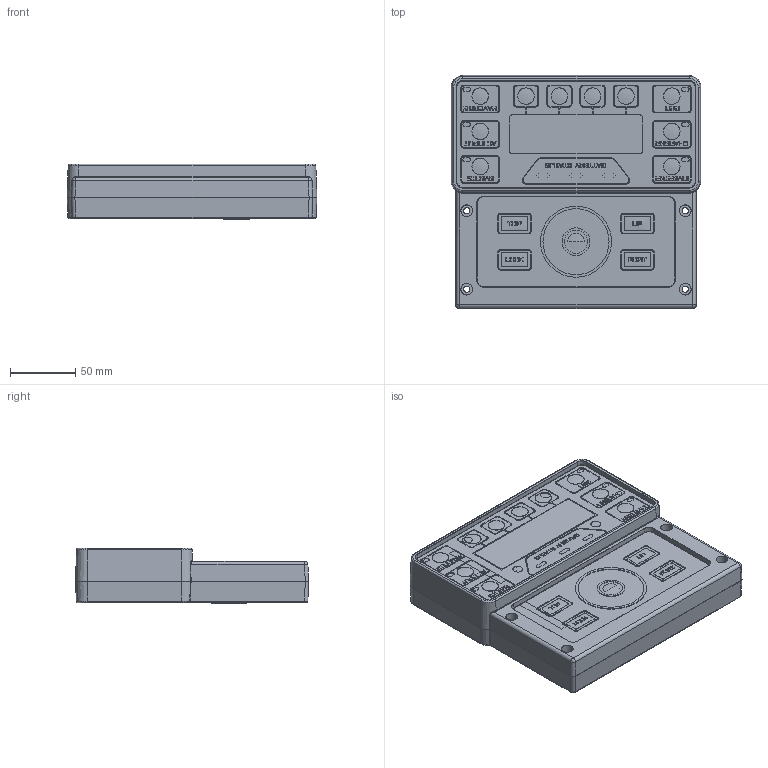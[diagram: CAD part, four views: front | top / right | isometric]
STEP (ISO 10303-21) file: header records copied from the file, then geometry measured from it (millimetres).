
FILE_DESCRIPTION (( 'STEP AP203' ), '1' );
FILE_NAME ('MATE3S.STEP', '2019-11-19T19:56:20', ( '' ), ( '' ), 'SwSTEP 2.0', 'SolidWorks 2017', '' );
FILE_SCHEMA (( 'CONFIG_CONTROL_DESIGN' ));
Products named in the file (1): MATE3S
Bounding box: 192.02 x 179.12 x 42.74 mm (x, y, z)
Volume: 302976 mm3; surface area: 279950.4 mm2
Topology: 44 solids, 44 shells, 6107 faces, 15180 edges, 9016 vertices
Faces by surface type: plane 2199, cylinder 2009, bspline 957, torus 585, sphere 258, cone 99
Entity records: 212954 total; most frequent: CARTESIAN_POINT 77826, ORIENTED_EDGE 29520, DIRECTION 26322, EDGE_CURVE 14760, AXIS2_PLACEMENT_3D 9248, VERTEX_POINT 9000, VECTOR 7826, LINE 7826
